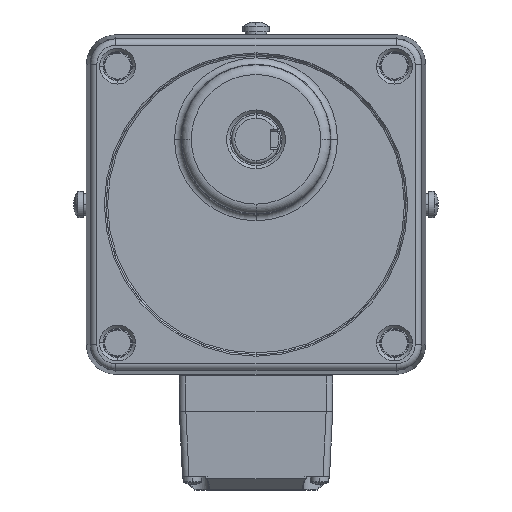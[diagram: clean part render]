
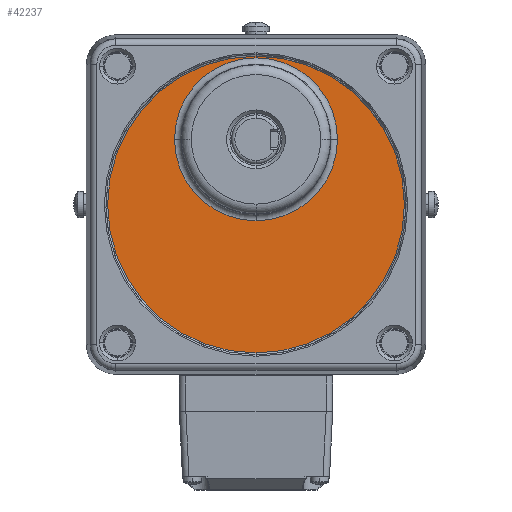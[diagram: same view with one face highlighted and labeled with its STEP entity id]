
A CAD part, left-side view. The second image highlights one B-rep face of the part: STEP entity #42237.
In plain terms, the highlighted planar face has unit normal (-1, 0, 0).
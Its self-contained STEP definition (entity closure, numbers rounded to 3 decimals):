
#67 = DIRECTION ( 'NONE',  ( -1., 0., 0. ) ) ;
#1149 = EDGE_CURVE ( 'NONE', #29369, #20178, #39425, .T. ) ;
#2596 = AXIS2_PLACEMENT_3D ( 'NONE', #3265, #26489, #35715 ) ;
#2725 = AXIS2_PLACEMENT_3D ( 'NONE', #6977, #13209, #6756 ) ;
#3265 = CARTESIAN_POINT ( 'NONE',  ( 2949.725, -773.74, -20. ) ) ;
#3289 = PLANE ( 'NONE',  #17660 ) ;
#5505 = EDGE_CURVE ( 'NONE', #27239, #25329, #19813, .T. ) ;
#6756 = DIRECTION ( 'NONE',  ( 0., 1., 0. ) ) ;
#6777 = DIRECTION ( 'NONE',  ( -1., 0., 0. ) ) ;
#6977 = CARTESIAN_POINT ( 'NONE',  ( 2949.725, -773.74, -20. ) ) ;
#7737 = CARTESIAN_POINT ( 'NONE',  ( 2949.725, -773.74, 0. ) ) ;
#8410 = CARTESIAN_POINT ( 'NONE',  ( 2949.725, -748.775, -20. ) ) ;
#11222 = EDGE_LOOP ( 'NONE', ( #26310, #33977, #24702 ) ) ;
#12582 = DIRECTION ( 'NONE',  ( 0., -1., 0. ) ) ;
#13189 = DIRECTION ( 'NONE',  ( 0., 0., 1. ) ) ;
#13209 = DIRECTION ( 'NONE',  ( -1., 0., 0. ) ) ;
#13467 = CARTESIAN_POINT ( 'NONE',  ( 2949.725, -773.74, 4.965 ) ) ;
#14448 = EDGE_CURVE ( 'NONE', #25329, #41611, #31538, .T. ) ;
#16990 = DIRECTION ( 'NONE',  ( 0., 0., 1. ) ) ;
#17520 = ORIENTED_EDGE ( 'NONE', *, *, #1149, .F. ) ;
#17660 = AXIS2_PLACEMENT_3D ( 'NONE', #23714, #67, #13189 ) ;
#19813 = CIRCLE ( 'NONE', #39687, 24.965 ) ;
#20068 = FACE_OUTER_BOUND ( 'NONE', #40681, .T. ) ;
#20178 = VERTEX_POINT ( 'NONE', #34622 ) ;
#20833 = DIRECTION ( 'NONE',  ( 0., 0., -1. ) ) ;
#23624 = DIRECTION ( 'NONE',  ( 1., 0., 0. ) ) ;
#23664 = CARTESIAN_POINT ( 'NONE',  ( 2949.725, -773.74, 0. ) ) ;
#23714 = CARTESIAN_POINT ( 'NONE',  ( 2949.725, -773.74, 0. ) ) ;
#24099 = CARTESIAN_POINT ( 'NONE',  ( 2949.725, -773.74, 45.491 ) ) ;
#24332 = AXIS2_PLACEMENT_3D ( 'NONE', #23664, #32690, #16990 ) ;
#24574 = CIRCLE ( 'NONE', #2596, 24.965 ) ;
#24702 = ORIENTED_EDGE ( 'NONE', *, *, #5505, .F. ) ;
#25329 = VERTEX_POINT ( 'NONE', #8410 ) ;
#26310 = ORIENTED_EDGE ( 'NONE', *, *, #37664, .F. ) ;
#26489 = DIRECTION ( 'NONE',  ( -1., 0., 0. ) ) ;
#27239 = VERTEX_POINT ( 'NONE', #13467 ) ;
#29369 = VERTEX_POINT ( 'NONE', #24099 ) ;
#29774 = EDGE_CURVE ( 'NONE', #20178, #29369, #31483, .T. ) ;
#30136 = AXIS2_PLACEMENT_3D ( 'NONE', #7737, #23624, #20833 ) ;
#30591 = ORIENTED_EDGE ( 'NONE', *, *, #29774, .F. ) ;
#31483 = CIRCLE ( 'NONE', #30136, 45.491 ) ;
#31538 = CIRCLE ( 'NONE', #2725, 24.965 ) ;
#32690 = DIRECTION ( 'NONE',  ( 1., 0., 0. ) ) ;
#32773 = CARTESIAN_POINT ( 'NONE',  ( 2949.725, -773.74, -20. ) ) ;
#33167 = FACE_BOUND ( 'NONE', #11222, .T. ) ;
#33977 = ORIENTED_EDGE ( 'NONE', *, *, #14448, .F. ) ;
#34622 = CARTESIAN_POINT ( 'NONE',  ( 2949.725, -773.74, -45.491 ) ) ;
#35715 = DIRECTION ( 'NONE',  ( 0., -1., 0. ) ) ;
#37664 = EDGE_CURVE ( 'NONE', #41611, #27239, #24574, .T. ) ;
#39425 = CIRCLE ( 'NONE', #24332, 45.491 ) ;
#39687 = AXIS2_PLACEMENT_3D ( 'NONE', #32773, #6777, #12582 ) ;
#40681 = EDGE_LOOP ( 'NONE', ( #30591, #17520 ) ) ;
#41611 = VERTEX_POINT ( 'NONE', #41803 ) ;
#41803 = CARTESIAN_POINT ( 'NONE',  ( 2949.725, -798.705, -20. ) ) ;
#42237 = ADVANCED_FACE ( 'NONE', ( #20068, #33167 ), #3289, .T. ) ;
